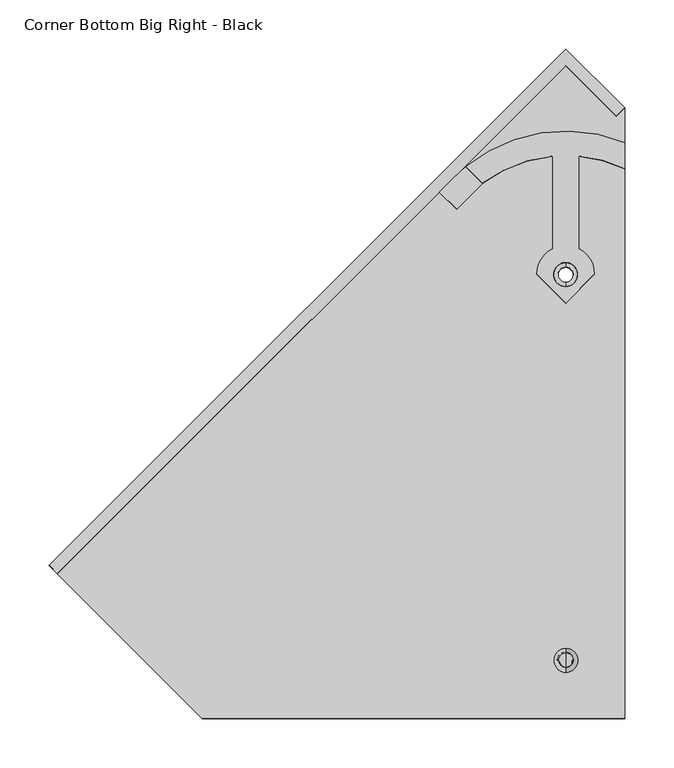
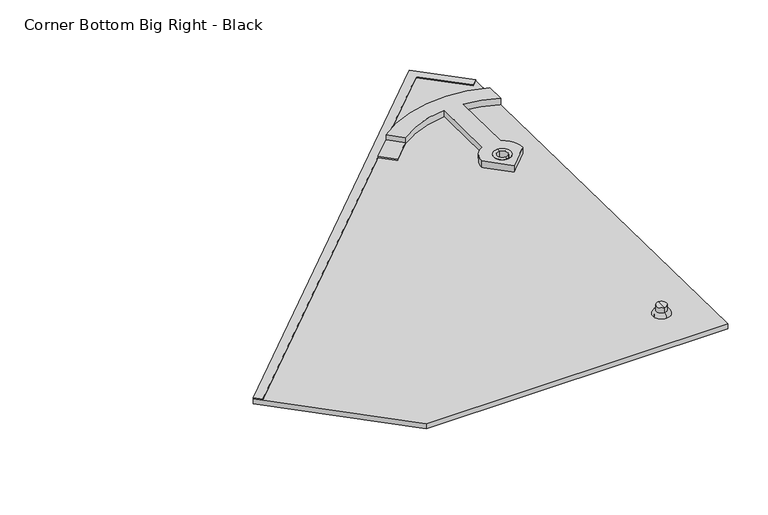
"""IFC4 building model written with IfcOpenShell, lengths in millimetres: proxy geometry, Roofing_Panels_SunStyle_Tile_Corner-Bottom-Big-Right : Corner Bottom Big Right - Black."""

import ifcopenshell
import ifcopenshell.guid

model = None  # the IFC model being written
_history = None  # IfcOwnerHistory: only IFC2X3 demands one
_inside = {}  # id of a spatial element -> (the spatial element, [elements in it])
_under = {}  # id of a project, library or spatial element -> (it, [spatial elements below it])
_declared = {}  # id of a project -> (the project, [libraries it declares])
_typed = {}  # id of a type object -> (the type object, [elements of that type])
_made_of = {}  # id of a material, layer set ... -> (it, [elements and type objects made of it])


def new_model(schema):
    """Start an empty IFC model of exactly this schema.

    Asked for "IFC4X3", IfcOpenShell would pick the latest addendum, in which some entities
    have other attributes; the version numbers below select the first issue.
    IFC2X3 requires an IfcOwnerHistory on every rooted entity: one is made here for all.
    """
    global model, _history
    if schema == "IFC4X3":
        model = ifcopenshell.file(schema_version=(4, 3, 0, 0))
    else:
        model = ifcopenshell.file(schema=schema)
    _inside.clear()
    _under.clear()
    _declared.clear()
    _typed.clear()
    _made_of.clear()
    _history = None
    if model.schema == "IFC2X3":
        org = make("IfcOrganization", Name="unknown")
        user = make(
            "IfcPersonAndOrganization",
            ThePerson=make("IfcPerson", FamilyName="unknown"),
            TheOrganization=org,
        )
        app = make(
            "IfcApplication",
            ApplicationDeveloper=org,
            Version="unknown",
            ApplicationFullName="unknown",
            ApplicationIdentifier="unknown",
        )
        _history = make(
            "IfcOwnerHistory",
            OwningUser=user,
            OwningApplication=app,
            ChangeAction="ADDED",
            CreationDate=0,
        )
    return model


def make(cls, **values):
    """One entity of the class cls with the attributes given. An attribute that is None is left unset."""
    return model.create_entity(
        cls, **{name: value for name, value in values.items() if value is not None}
    )


def rooted(cls, **values):
    """An entity with a GlobalId (a new one), such as an element, a storey or a relation."""
    return make(cls, GlobalId=ifcopenshell.guid.new(), OwnerHistory=_history, **values)


def si_unit(unit_type, name, prefix=None):
    """IfcSIUnit, for example si_unit("LENGTHUNIT", "METRE", prefix="MILLI")."""
    return make("IfcSIUnit", UnitType=unit_type, Prefix=prefix, Name=name)


def assignment(units):
    """IfcUnitAssignment: the units of a project."""
    return None if units is None else make("IfcUnitAssignment", Units=units)


def point(xyz):
    """IfcCartesianPoint."""
    return None if xyz is None else make("IfcCartesianPoint", Coordinates=xyz)


def direction(xyz):
    """IfcDirection."""
    return None if xyz is None else make("IfcDirection", DirectionRatios=xyz)


def frame(location, z_axis=None, x_axis=None):
    """IfcAxis2Placement3D, a coordinate frame: its origin and axes. An axis left out is left unset."""
    return make(
        "IfcAxis2Placement3D",
        Location=point(location),
        Axis=direction(z_axis),
        RefDirection=direction(x_axis),
    )


def frame_2d(location, x_axis=None):
    """IfcAxis2Placement2D, a coordinate frame in the plane: its origin and x axis."""
    return make(
        "IfcAxis2Placement2D", Location=point(location), RefDirection=direction(x_axis)
    )


def origin():
    """The frame at (0, 0, 0) with its axes left unset."""
    return frame((0.0, 0.0, 0.0))


def place(relative_to, where):
    """IfcLocalPlacement: puts the frame where relative to a parent placement (None: the world)."""
    return make(
        "IfcLocalPlacement", PlacementRelTo=relative_to, RelativePlacement=where
    )


def context(
    kind, dimensions, precision=None, world=None, true_north=None, identifier=None
):
    """IfcGeometricRepresentationContext, for example the 3D "Model" context."""
    return make(
        "IfcGeometricRepresentationContext",
        ContextIdentifier=identifier,
        ContextType=kind,
        CoordinateSpaceDimension=dimensions,
        Precision=precision,
        WorldCoordinateSystem=world,
        TrueNorth=true_north,
    )


def project(units=None, contexts=None):
    """IfcProject with its units and contexts."""
    return rooted(
        "IfcProject",
        Name="project",
        RepresentationContexts=contexts,
        UnitsInContext=assignment(units),
    )


def spatial(cls, under=None, at=None, **own):
    """A site, building, storey or space (cls), placed at a placement, below another one or the project."""
    s = rooted(cls, ObjectPlacement=at, **own)
    if under is not None:
        _under.setdefault(under.id(), (under, []))[1].append(s)
    return s


def polyline(points):
    """IfcPolyline through the points."""
    return make("IfcPolyline", Points=[point(p) for p in points])


def circle_curve(where, radius):
    """IfcCircle in the frame where."""
    return make("IfcCircle", Position=where, Radius=radius)


def ellipse_curve(where, semi_axis1, semi_axis2):
    """IfcEllipse in the frame where."""
    return make(
        "IfcEllipse", Position=where, SemiAxis1=semi_axis1, SemiAxis2=semi_axis2
    )


def trimmed(basis, trim1, trim2, sense, master):
    """IfcTrimmedCurve: the piece of a basis curve between two trims."""
    return make(
        "IfcTrimmedCurve",
        BasisCurve=basis,
        Trim1=trim1,
        Trim2=trim2,
        SenseAgreement=sense,
        MasterRepresentation=master,
    )


def segment(curve, same_sense, transition):
    """IfcCompositeCurveSegment."""
    return make(
        "IfcCompositeCurveSegment",
        Transition=transition,
        SameSense=same_sense,
        ParentCurve=curve,
    )


def composite_curve(segments, self_intersect=None):
    """IfcCompositeCurve: segments joined end to end."""
    return make("IfcCompositeCurve", Segments=segments, SelfIntersect=self_intersect)


def outline(outer, holes=None, kind="AREA"):
    """IfcArbitraryClosedProfileDef: a profile drawn as a closed curve; with holes, ...WithVoids."""
    if holes is None:
        return make("IfcArbitraryClosedProfileDef", ProfileType=kind, OuterCurve=outer)
    return make(
        "IfcArbitraryProfileDefWithVoids",
        ProfileType=kind,
        OuterCurve=outer,
        InnerCurves=holes,
    )


def extrude(swept, where, along, depth):
    """IfcExtrudedAreaSolid: the profile swept, set in the frame where, extruded along a direction by depth."""
    return make(
        "IfcExtrudedAreaSolid",
        SweptArea=swept,
        Position=where,
        ExtrudedDirection=direction(along),
        Depth=depth,
    )


def shape(context_of_items, identifier, shape_type, items):
    """IfcShapeRepresentation: the items that make up one representation, for example the "Body"."""
    return make(
        "IfcShapeRepresentation",
        ContextOfItems=context_of_items,
        RepresentationIdentifier=identifier,
        RepresentationType=shape_type,
        Items=items,
    )


def source(mapping_origin, context_of_items, identifier, shape_type, items):
    """IfcRepresentationMap: a shape defined once, which mapped items show again and again."""
    return make(
        "IfcRepresentationMap",
        MappingOrigin=mapping_origin,
        MappedRepresentation=shape(context_of_items, identifier, shape_type, items),
    )


def transform(
    local_origin,
    x_axis=None,
    y_axis=None,
    z_axis=None,
    scale=None,
    scale2=None,
    scale3=None,
    uniform=True,
):
    """IfcCartesianTransformationOperator3D, or its non-uniform kind. x_axis, y_axis, z_axis: its Axis1, 2, 3."""
    if uniform:
        return make(
            "IfcCartesianTransformationOperator3D",
            Axis1=direction(x_axis),
            Axis2=direction(y_axis),
            LocalOrigin=point(local_origin),
            Scale=scale,
            Axis3=direction(z_axis),
        )
    return make(
        "IfcCartesianTransformationOperator3DnonUniform",
        Axis1=direction(x_axis),
        Axis2=direction(y_axis),
        LocalOrigin=point(local_origin),
        Scale=scale,
        Axis3=direction(z_axis),
        Scale2=scale2,
        Scale3=scale3,
    )


def mapped(mapping_source, mapping_target):
    """IfcMappedItem: shows the shape of a source again, moved by a transform."""
    return make(
        "IfcMappedItem", MappingSource=mapping_source, MappingTarget=mapping_target
    )


def made_of(thing, what):
    """Note that an element or type object is made of a material, layer set ...; save() writes the relation."""
    if what is not None:
        _made_of.setdefault(what.id(), (what, []))[1].append(thing)
    return thing


def element(
    cls,
    number,
    at=None,
    inside=None,
    cuts=None,
    type_object=None,
    material=None,
    context=None,
    identifier="Body",
    shape_type=None,
    held_by="IfcProductDefinitionShape",
    body=None,
    shapes=None,
    **own,
):
    """One element of the class cls, such as IfcWall. Its Tag is "e" and its number.

    at: its placement. inside: the storey or other place that contains it. cuts: it is an
    opening in that element (IfcRelVoidsElement). A single representation is given by context,
    identifier, shape_type and body (its items); several are given by shapes. held_by: the class
    of the entity that holds the representations. save() writes the other relations.
    """
    e = rooted(cls, Tag="e%d" % number, ObjectPlacement=at, **own)
    if body is not None:
        shapes = [shape(context, identifier, shape_type, body)]
    if shapes is not None:
        e.Representation = make(held_by, Representations=shapes)
    if inside is not None:
        _inside.setdefault(inside.id(), (inside, []))[1].append(e)
    if cuts is not None:
        rooted(
            "IfcRelVoidsElement", RelatingBuildingElement=cuts, RelatedOpeningElement=e
        )
    if type_object is not None:
        _typed.setdefault(type_object.id(), (type_object, []))[1].append(e)
    return made_of(e, material)


def aggregate(whole, parts):
    """IfcRelAggregates: a whole, such as a stair, and the parts it consists of."""
    return rooted("IfcRelAggregates", RelatingObject=whole, RelatedObjects=parts)


def save(model, path):
    """Write the relations noted so far, then the file.

    IfcRelAggregates (storeys below a building ...), IfcRelContainedInSpatialStructure (elements
    in a storey), IfcRelDefinesByType, IfcRelAssociatesMaterial and IfcRelDeclares: one each for
    every whole, place, type object, material and project.
    """
    for whole, parts in _under.values():
        aggregate(whole, parts)
    for where, things in _inside.values():
        rooted(
            "IfcRelContainedInSpatialStructure",
            RelatedElements=things,
            RelatingStructure=where,
        )
    for kind, things in _typed.values():
        rooted("IfcRelDefinesByType", RelatedObjects=things, RelatingType=kind)
    for what, things in _made_of.values():
        rooted("IfcRelAssociatesMaterial", RelatedObjects=things, RelatingMaterial=what)
    for by, libraries in _declared.values():
        rooted("IfcRelDeclares", RelatingContext=by, RelatedDefinitions=libraries)
    model.write(path)


def plane_surface(at):
    """IfcPlane: the flat surface through the origin of the frame at, square to its z axis."""
    return make("IfcPlane", Position=at)


def cylinder_surface(at, radius):
    """IfcCylindricalSurface: all points at the distance radius from the z axis of the frame at."""
    return make("IfcCylindricalSurface", Position=at, Radius=radius)


def revolved_surface(curve, axis_point, axis_direction):
    """IfcSurfaceOfRevolution: the curve turned about the line through axis_point along axis_direction."""
    return make(
        "IfcSurfaceOfRevolution",
        SweptCurve=make("IfcArbitraryOpenProfileDef", ProfileType="CURVE", Curve=curve),
        AxisPosition=make("IfcAxis1Placement", Location=point(axis_point), Axis=direction(axis_direction)),
    )


def advanced_brep(points, edges, surfaces, faces):
    """IfcAdvancedBrep: a solid bounded by faces that lie on surfaces and meet in shared edges.

    An edge is (start, end): straight between two places in points (the first is 0);
    or (start, end, curve); or (start, end, curve, False) where it runs against its curve.
    A face is (place in surfaces, loops), or (place, loops, False) where it looks against
    its surface's normal. A loop lists edges by number (the first is 1), with a minus sign
    where the edge is run from its end to its start. The first loop is the outer one.
    """
    corners = [point(p) for p in points]
    vertices = [make("IfcVertexPoint", VertexGeometry=c) for c in corners]
    made = []
    for start, end, *more in edges:
        made.append(
            make(
                "IfcEdgeCurve",
                EdgeStart=vertices[start],
                EdgeEnd=vertices[end],
                EdgeGeometry=more[0] if more else make("IfcPolyline", Points=[corners[start], corners[end]]),
                SameSense=more[1] if len(more) > 1 else True,
            )
        )
    hull = []
    for where, loops, *sense in faces:
        bounds = []
        for j, loop in enumerate(loops):
            ring = [make("IfcOrientedEdge", EdgeElement=made[abs(k) - 1], Orientation=k > 0) for k in loop]
            bounds.append(
                make(
                    "IfcFaceOuterBound" if j == 0 else "IfcFaceBound",
                    Bound=make("IfcEdgeLoop", EdgeList=ring),
                    Orientation=True,
                )
            )
        hull.append(make("IfcAdvancedFace", Bounds=bounds, FaceSurface=surfaces[where], SameSense=sense[0] if sense else True))
    return make("IfcAdvancedBrep", Outer=make("IfcClosedShell", CfsFaces=hull))


def corner_bottom_big_right_black_b907a22d(model_context):
    return source(origin(), model_context, "Body", "SolidModel", [
        advanced_brep(
        [(0.2700094, -14.9906379, 18.1989674), (0.2700094, -1.6575574, 17.9756715), (0.2700094, -2.0258665, -4.0161979), (0.2700094, -15.358947, -3.792902), (0.2700094, -20.4898668, 18.2910658), (0.2700094, 3.8416715, 17.8835731), (0.2700094, -15.5408705, 23.2048726), (0.2700094, -0.9400075, 22.9603445), (0.2700094, -8.1064105, 31.0854967), (0.2700094, -0.805979, 30.9632326), (0.2700094, -15.406842, 31.2077608), (0.2700094, -8.6924067, -3.9045499)],
        [
            (0, 1, circle_curve(frame((0.2700094, -8.3240976, 18.0873194), z_axis=(0.0, -0.016745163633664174, -0.9998597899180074), x_axis=(0.0, 0.9998597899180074, -0.016745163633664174)), 6.6674751)),
            (1, 2),
            (2, 3, circle_curve(frame((0.2700094, -8.6924067, -3.9045499), z_axis=(0.0, 0.016745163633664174, 0.9998597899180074), x_axis=(0.0, 0.9998597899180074, -0.016745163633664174)), 6.6674751)),
            (3, 0),
            (1, 0, circle_curve(frame((0.2700094, -8.3240976, 18.0873194), z_axis=(0.0, -0.016745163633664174, -0.9998597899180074), x_axis=(0.0, 0.9998597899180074, -0.016745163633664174)), 6.6674751)),
            (3, 2, circle_curve(frame((0.2700094, -8.6924067, -3.9045499), z_axis=(0.0, 0.016745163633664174, 0.9998597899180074), x_axis=(0.0, 0.9998597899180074, -0.016745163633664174)), 6.6674751)),
            (4, 5, circle_curve(frame((0.2700094, -8.3240976, 18.0873194), z_axis=(0.0, -0.016745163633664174, -0.9998597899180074), x_axis=(0.0, 0.9998597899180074, -0.016745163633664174)), 12.1674751)),
            (5, 1),
            (0, 4),
            (5, 4, circle_curve(frame((0.2700094, -8.3240976, 18.0873194), z_axis=(0.0, -0.016745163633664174, -0.9998597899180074), x_axis=(0.0, 0.9998597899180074, -0.016745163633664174)), 12.1674751)),
            (6, 7, circle_curve(frame((0.2700094, -8.240439, 23.0826085), z_axis=(0.0, -0.016745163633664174, -0.9998597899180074), x_axis=(0.0, 0.9998597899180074, -0.016745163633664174)), 7.3014552)),
            (7, 5, circle_curve(frame((0.2700094, -1.2442055, 17.8835731), z_axis=(-1.0, 0.0, 0.0), x_axis=(0.0, 1.0, 0.0)), 5.0858769)),
            (4, 6, circle_curve(frame((0.2700094, -15.406842, 18.120762), z_axis=(-1.0, 0.0, 0.0), x_axis=(0.0, -0.9994391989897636, 0.03348563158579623)), 5.0858769)),
            (7, 6, circle_curve(frame((0.2700094, -8.240439, 23.0826085), z_axis=(0.0, -0.016745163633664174, -0.9998597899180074), x_axis=(0.0, 0.9998597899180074, -0.016745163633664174)), 7.3014552)),
            (8, 9),
            (9, 10, circle_curve(frame((0.2700094, -8.1064105, 31.0854967), z_axis=(0.0, 0.016745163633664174, 0.9998597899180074), x_axis=(0.0, 0.9998597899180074, -0.016745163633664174)), 7.3014552)),
            (10, 8),
            (10, 9, circle_curve(frame((0.2700094, -8.1064105, 31.0854967), z_axis=(0.0, 0.016745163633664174, 0.9998597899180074), x_axis=(0.0, 0.9998597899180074, -0.016745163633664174)), 7.3014552)),
            (2, 11),
            (11, 3),
            (9, 7),
            (6, 10),
        ],
        [
            cylinder_surface(frame((0.2700094, -7.9720525, 39.1080636), z_axis=(0.0, 0.016745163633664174, 0.9998597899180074), x_axis=(0.0, 0.9998597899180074, -0.016745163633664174)), 6.6674751),
            plane_surface(frame((0.2700094, -8.3240976, 18.0873194), z_axis=(0.0, -0.016745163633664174, -0.9998597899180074), x_axis=(0.0, 0.9998597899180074, -0.016745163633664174))),
            revolved_surface(trimmed(ellipse_curve(frame((0.2700094, -1.2442055, 17.8835731), z_axis=(1.0, 0.0, 0.0), x_axis=(0.0, 1.0, 0.0)), 5.0858769, 5.0858769), [point((0.2700094, 3.8416715, 17.8835731))], [point((0.2700094, -0.9400075, 22.9603445))], True, "CARTESIAN"), (0.2700094, -7.9720525, 39.1080636), (0.0, 0.016745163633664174, 0.9998597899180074)),
            plane_surface(frame((0.2700094, -8.1064105, 31.0854967), z_axis=(0.0, 0.016745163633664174, 0.9998597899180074), x_axis=(0.0, 0.9998597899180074, -0.016745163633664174))),
            plane_surface(frame((0.2700094, -8.6924067, -3.9045499), z_axis=(0.0, -0.016745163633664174, -0.9998597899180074), x_axis=(0.0, 0.9998597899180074, -0.016745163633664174))),
            cylinder_surface(frame((0.2700094, -7.9720525, 39.1080636), z_axis=(0.0, 0.016745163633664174, 0.9998597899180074), x_axis=(0.0, 0.9998597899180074, -0.016745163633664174)), 7.3014552),
        ],
        [
            (0, [[1, 2, 3, 4]]),
            (0, [[5, -4, 6, -2]]),
            (1, [[7, 8, -1, 9]]),
            (1, [[10, -9, -5, -8]]),
            (2, [[11, 12, -7, 13]]),
            (2, [[14, -13, -10, -12]]),
            (3, [[15, 16, 17]]),
            (3, [[-17, 18, -15]]),
            (4, [[-3, 19, 20]]),
            (4, [[-6, -20, -19]]),
            (5, [[-16, 21, -11, 22]]),
            (5, [[-18, -22, -14, -21]]),
        ],
    ),
        extrude(outline(polyline([(0.0, -11.9999999), (0.0, 0.0), (744.8589156, 0.0), (744.8708335, -84.9940404), (732.8708335, -84.9957231), (732.8605981, -12.0), (0.0, -11.9999999)])), frame((-526.732038, 88.3990677, 14.8231598), z_axis=(0.0, 0.016745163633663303, 0.9998597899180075), x_axis=(0.7071563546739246, 0.7069580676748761, -0.011839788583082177)), (0.0, 0.0, 1.0), 1.5),
        advanced_brep(
        [(0.0, 377.2738092, 20.2441668), (0.0, 392.6066101, 19.9873805), (0.0, 397.1059788, 19.9120273), (0.0, 372.7744405, 20.31952), (0.0, 377.005887, 4.2464102), (0.0, 392.3386871, 3.9896239), (0.0, 372.5065179, 4.3217634), (0.0, 396.8380562, 3.9142707)],
        [
            (0, 1, circle_curve(frame((0.0, 384.9402097, 20.1157737), z_axis=(0.0, -0.016745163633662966, -0.9998597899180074), x_axis=(0.0, 0.9998597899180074, -0.016745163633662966)), 7.6674755)),
            (1, 2),
            (2, 3, circle_curve(frame((0.0, 384.9402097, 20.1157737), z_axis=(0.0, 0.016745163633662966, 0.9998597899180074), x_axis=(0.0, 0.9998597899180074, -0.016745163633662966)), 12.1674751)),
            (3, 0),
            (1, 0, circle_curve(frame((0.0, 384.9402097, 20.1157737), z_axis=(0.0, -0.016745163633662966, -0.9998597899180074), x_axis=(0.0, 0.9998597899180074, -0.016745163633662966)), 7.6674755)),
            (3, 2, circle_curve(frame((0.0, 384.9402097, 20.1157737), z_axis=(0.0, 0.016745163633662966, 0.9998597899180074), x_axis=(0.0, 0.9998597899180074, -0.016745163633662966)), 12.1674751)),
            (4, 5, circle_curve(frame((0.0, 384.672287, 4.118017), z_axis=(0.0, -0.016745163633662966, -0.9998597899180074), x_axis=(0.0, 0.9998597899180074, -0.016745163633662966)), 7.6674751)),
            (5, 1),
            (0, 4),
            (5, 4, circle_curve(frame((0.0, 384.672287, 4.118017), z_axis=(0.0, -0.016745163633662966, -0.9998597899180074), x_axis=(0.0, 0.9998597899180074, -0.016745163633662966)), 7.6674751)),
            (6, 7, circle_curve(frame((0.0, 384.672287, 4.118017), z_axis=(0.0, -0.016745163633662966, -0.9998597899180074), x_axis=(0.0, 0.9998597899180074, -0.016745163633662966)), 12.1674751)),
            (7, 5),
            (4, 6),
            (7, 6, circle_curve(frame((0.0, 384.672287, 4.118017), z_axis=(0.0, -0.016745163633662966, -0.9998597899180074), x_axis=(0.0, 0.9998597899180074, -0.016745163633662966)), 12.1674751)),
            (2, 7),
            (6, 3),
        ],
        [
            plane_surface(frame((0.0, 384.9402097, 20.1157737), z_axis=(0.0, 0.016745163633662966, 0.9998597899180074), x_axis=(0.0, 0.9998597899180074, -0.016745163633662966))),
            revolved_surface(polyline([(0.0, 392.60660974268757, 19.987380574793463), (0.0, 392.3386871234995, 3.9896238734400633)]), (0.0, 384.9402097, 20.1157737), (0.0, 0.016745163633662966, 0.9998597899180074)),
            plane_surface(frame((0.0, 384.672287, 4.118017), z_axis=(0.0, -0.016745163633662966, -0.9998597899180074), x_axis=(0.0, 0.9998597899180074, -0.016745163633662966))),
            cylinder_surface(frame((0.0, 384.9402097, 20.1157737), z_axis=(0.0, 0.016745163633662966, 0.9998597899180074), x_axis=(0.0, 0.9998597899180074, -0.016745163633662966)), 12.1674751),
        ],
        [
            (0, [[1, 2, 3, 4]]),
            (0, [[5, -4, 6, -2]]),
            (1, [[7, 8, -1, 9]]),
            (1, [[10, -9, -5, -8]]),
            (2, [[11, 12, -7, 13]]),
            (2, [[14, -13, -10, -12]]),
            (3, [[-3, 15, -11, 16]]),
            (3, [[-6, -16, -14, -15]]),
        ],
    ),
        extrude(outline(polyline([(230.2296775, 12.0003225), (170.1340284, -48.1037539), (-452.7826354, -48.1037539), (-452.7826354, 382.3556619), (-296.4281848, 538.732038), (230.2296775, 12.0003225)]), holes=[composite_curve([segment(trimmed(circle_curve(frame_2d((0.0, 12.0)), 12.0), [point((0.0, 24.0))], [point((0.0, 0.0))], True, "CARTESIAN"), True, "CONTINUOUS"), segment(trimmed(circle_curve(frame_2d((0.0, 12.0)), 12.0), [point((0.0, 0.0))], [point((0.0, 24.0))], True, "CARTESIAN"), True, "CONTINUOUS")], self_intersect=False), composite_curve([segment(trimmed(circle_curve(frame_2d((-392.7826354, 12.3464676)), 8.0), [point((-392.7826354, 20.3464676))], [point((-392.7826354, 4.3464676))], True, "CARTESIAN"), True, "CONTINUOUS"), segment(trimmed(circle_curve(frame_2d((-392.7826354, 12.3464676)), 8.0), [point((-392.7826354, 4.3464676))], [point((-392.7826354, 20.3464676))], True, "CARTESIAN"), True, "CONTINUOUS")], self_intersect=False)]), frame((12.0, 384.6601016, 2.3604729), z_axis=(0.0, 0.01674516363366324, 0.9998597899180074), x_axis=(0.0, 0.9998597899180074, -0.01674516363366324)), (0.0, 0.0, 1.0), 7.5),
        advanced_brep(
        [(-128.9467134, 469.1477223, 10.9469178), (-111.2690438, 451.4725314, 11.2429333), (-84.9431983, 477.7946858, 10.8021027), (-102.0275718, 494.8742688, 10.5160622), (-114.2509691, 483.8393459, 10.7008697), (-128.9467134, 469.1058594, 8.4472683), (-114.2509691, 483.797483, 8.2012202), (-102.0275718, 494.8324058, 8.0164127), (60.1037539, 519.5218584, 7.6029258), (60.1037539, 492.7956258, 8.0505237), (13.3, 505.6435355, 7.8353532), (13.3, 411.3247133, 9.4149588), (29.3894281, 385.1205936, 9.8538126), (0.0, 355.7352863, 10.3459433), (-29.3894281, 385.1205936, 9.8538126), (-13.3, 411.3247133, 9.4149588), (-13.3, 505.6435355, 7.8353532), (-84.944396, 477.7516253, 8.3024733), (-111.2690438, 451.4306685, 8.7432838), (12.0, 385.1205936, 9.8538126), (-12.0, 385.1205936, 9.8538126), (60.1037539, 519.6893101, 17.6015237), (-102.0275718, 494.9998575, 18.0150106), (-84.944396, 477.9190769, 18.3010712), (-13.3, 505.8109871, 17.8339511), (-13.3, 411.492165, 19.4135567), (-29.3894281, 385.2880453, 19.8524105), (0.0, 355.9027379, 20.3445412), (29.3894281, 385.2880453, 19.8524105), (13.3, 411.492165, 19.4135567), (13.3, 505.8109871, 17.8339511), (60.1037539, 492.9630774, 18.0491216), (12.0, 385.2880453, 19.8524105), (-12.0, 385.2880453, 19.8524105)],
        [
            (0, 1),
            (1, 2),
            (2, 3),
            (3, 4, circle_curve(frame((0.0, 369.6043959, 12.6140208), z_axis=(0.0, 0.01674516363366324, 0.9998597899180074), x_axis=(-1.0, 0.0, 0.0)), 161.57527)),
            (4, 0),
            (5, 6),
            (6, 7, circle_curve(frame((0.0, 369.562533, 10.1143714), z_axis=(0.0, -0.01674516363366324, -0.9998597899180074), x_axis=(-1.0, 0.0, 0.0)), 161.57527)),
            (7, 8, circle_curve(frame((0.0, 369.562533, 10.1143714), z_axis=(0.0, -0.01674516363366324, -0.9998597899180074), x_axis=(-1.0, 0.0, 0.0)), 161.57527)),
            (8, 9),
            (9, 10, circle_curve(frame((0.0, 365.5555068, 10.1814791), z_axis=(0.0, 0.01674516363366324, 0.9998597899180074), x_axis=(-1.0, 0.0, 0.0)), 140.737522)),
            (10, 11),
            (11, 12, circle_curve(frame((0.0, 385.1205936, 9.8538126), z_axis=(0.0, -0.01674516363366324, -0.9998597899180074), x_axis=(-1.0, 0.0, 0.0)), 29.3894281)),
            (12, 13),
            (13, 14),
            (14, 15, circle_curve(frame((0.0, 385.1205936, 9.8538126), z_axis=(0.0, -0.01674516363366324, -0.9998597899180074), x_axis=(-1.0, 0.0, 0.0)), 29.3894281)),
            (15, 16),
            (16, 17, circle_curve(frame((0.0, 365.5555068, 10.1814791), z_axis=(0.0, 0.01674516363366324, 0.9998597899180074), x_axis=(-1.0, 0.0, 0.0)), 140.737522)),
            (17, 18),
            (18, 5),
            (19, 20, circle_curve(frame((0.0, 385.1205936, 9.8538126), z_axis=(0.0, 0.01674516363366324, 0.9998597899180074), x_axis=(-1.0, 0.0, 0.0)), 12.0)),
            (20, 19, circle_curve(frame((0.0, 385.1205936, 9.8538126), z_axis=(0.0, 0.01674516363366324, 0.9998597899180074), x_axis=(-1.0, 0.0, 0.0)), 12.0)),
            (4, 6),
            (5, 0),
            (18, 1),
            (3, 7),
            (17, 2),
            (21, 22, circle_curve(frame((0.0, 369.7299846, 20.1129693), z_axis=(0.0, 0.01674516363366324, 0.9998597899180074), x_axis=(-1.0, 0.0, 0.0)), 161.57527)),
            (22, 23),
            (23, 24, circle_curve(frame((0.0, 365.7229584, 20.180077), z_axis=(0.0, -0.01674516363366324, -0.9998597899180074), x_axis=(-1.0, 0.0, 0.0)), 140.737522)),
            (24, 25),
            (25, 26, circle_curve(frame((0.0, 385.2880453, 19.8524105), z_axis=(0.0, 0.01674516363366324, 0.9998597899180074), x_axis=(-1.0, 0.0, 0.0)), 29.3894281)),
            (26, 27),
            (27, 28),
            (28, 29, circle_curve(frame((0.0, 385.2880453, 19.8524105), z_axis=(0.0, 0.01674516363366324, 0.9998597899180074), x_axis=(-1.0, 0.0, 0.0)), 29.3894281)),
            (29, 30),
            (30, 31, circle_curve(frame((0.0, 365.7229584, 20.180077), z_axis=(0.0, -0.01674516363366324, -0.9998597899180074), x_axis=(-1.0, 0.0, 0.0)), 140.737522)),
            (31, 21),
            (32, 33, circle_curve(frame((0.0, 385.2880453, 19.8524105), z_axis=(0.0, -0.01674516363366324, -0.9998597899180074), x_axis=(-1.0, 0.0, 0.0)), 12.0)),
            (33, 32, circle_curve(frame((0.0, 385.2880453, 19.8524105), z_axis=(0.0, -0.01674516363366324, -0.9998597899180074), x_axis=(-1.0, 0.0, 0.0)), 12.0)),
            (29, 11),
            (10, 30),
            (28, 12),
            (27, 13),
            (26, 14),
            (25, 15),
            (24, 16),
            (21, 8),
            (3, 22),
            (33, 20),
            (19, 32),
            (2, 23),
            (9, 31),
        ],
        [
            plane_surface(frame((0.0, 340.2190886, 13.1061516), z_axis=(0.0, 0.016745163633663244, 0.9998597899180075), x_axis=(0.7071067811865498, -0.7070076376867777, 0.01184061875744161))),
            plane_surface(frame((0.0, 340.1772257, 10.6065021), z_axis=(0.0, -0.016745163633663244, -0.9998597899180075), x_axis=(-0.7071067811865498, 0.7070076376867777, -0.01184061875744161))),
            plane_surface(frame((-114.2509691, 483.8393459, 10.7008697), z_axis=(-0.7070572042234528, 0.7070572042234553, -0.011841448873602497), x_axis=(0.0, -0.016745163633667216, -0.9998597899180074))),
            plane_surface(frame((-128.9467134, 469.1477223, 10.9469178), z_axis=(-0.7071067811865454, -0.7070076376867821, 0.011840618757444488), x_axis=(0.0, -0.016745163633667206, -0.9998597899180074))),
            cylinder_surface(frame((0.0, 369.562533, 10.1143714), z_axis=(0.0, 0.01674516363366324, 0.9998597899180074), x_axis=(-1.0, 0.0, 0.0)), 161.57527),
            plane_surface(frame((-111.2690438, 451.4725314, 11.2429333), z_axis=(0.7071067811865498, -0.7070076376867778, 0.011840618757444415), x_axis=(0.0, -0.016745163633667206, -0.9998597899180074))),
            plane_surface(frame((-161.57527, 369.7299846, 20.1129693), z_axis=(0.0, 0.016745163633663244, 0.9998597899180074), x_axis=(0.0, -0.9998597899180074, 0.016745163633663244))),
            plane_surface(frame((13.3, 411.492165, 19.4135567), z_axis=(1.0000000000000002, 0.0, 0.0), x_axis=(0.0, -0.01674516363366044, -0.9998597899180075))),
            cylinder_surface(frame((0.0, 385.1205936, 9.8538126), z_axis=(0.0, 0.01674516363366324, 0.9998597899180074), x_axis=(-1.0, 0.0, 0.0)), 29.3894281),
            plane_surface(frame((0.0, 355.9027379, 20.3445412), z_axis=(0.7071067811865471, -0.7070076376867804, 0.011840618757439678), x_axis=(0.0, -0.016745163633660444, -0.9998597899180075))),
            plane_surface(frame((-29.3894281, 385.2880453, 19.8524105), z_axis=(-0.7071067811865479, -0.7070076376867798, 0.011840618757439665), x_axis=(0.0, -0.016745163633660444, -0.9998597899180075))),
            plane_surface(frame((-13.3, 505.8109871, 17.8339511), z_axis=(-1.0000000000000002, 0.0, 0.0), x_axis=(0.0, -0.01674516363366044, -0.9998597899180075))),
            revolved_surface(polyline([(-12.0, 385.1205936, 9.8538126), (-12.0, 385.2880452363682, 19.852410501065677)]), (0.0, 385.1205936, 9.8538126), (0.0, -0.01674516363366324, -0.9998597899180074)),
            plane_surface(frame((-102.0275718, 494.9998575, 18.0150106), z_axis=(-0.7071067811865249, -0.7070076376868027, 0.011840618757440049), x_axis=(0.0, -0.01674516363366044, -0.9998597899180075))),
            revolved_surface(polyline([(-140.737522, 365.5555067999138, 10.18147909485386), (-140.737522, 365.722958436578, 20.18007701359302)]), (0.0, 365.5555068, 10.1814791), (0.0, -0.01674516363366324, -0.9998597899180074)),
            revolved_surface(polyline([(-140.737522, 365.5555068, 10.1814791), (-140.737522, 365.72295843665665, 20.180077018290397)]), (0.0, 365.5555068, 10.1814791), (0.0, -0.01674516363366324, -0.9998597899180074)),
            plane_surface(frame((60.1037539, 492.9630774, 18.0491216), z_axis=(1.0000000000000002, 0.0, 0.0), x_axis=(0.0, -0.01674516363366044, -0.9998597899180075))),
        ],
        [
            (0, [[1, 2, 3, 4, 5]]),
            (1, [[6, 7, 8, 9, 10, 11, 12, 13, 14, 15, 16, 17, 18, 19], [20, 21]]),
            (2, [[-5, 22, -6, 23]]),
            (3, [[-1, -23, -19, 24]]),
            (4, [[-4, 25, -7, -22]]),
            (5, [[-2, -24, -18, 26]]),
            (6, [[27, 28, 29, 30, 31, 32, 33, 34, 35, 36, 37], [38, 39]]),
            (7, [[-35, 40, -11, 41]]),
            (8, [[-34, 42, -12, -40]]),
            (9, [[-33, 43, -13, -42]]),
            (10, [[-32, 44, -14, -43]]),
            (8, [[-31, 45, -15, -44]]),
            (11, [[-30, 46, -16, -45]]),
            (4, [[-27, 47, -8, -25, 48]]),
            (12, [[-39, 49, -20, 50]]),
            (12, [[-38, -50, -21, -49]]),
            (13, [[-28, -48, -3, 51]]),
            (14, [[-36, -41, -10, 52]]),
            (15, [[-29, -51, -26, -17, -46]]),
            (16, [[-37, -52, -9, -47]]),
        ],
    ),
    ])


if __name__ == "__main__":
    model = new_model("IFC4")
    model_context = context("Model", 3, world=origin())
    ifc_project = project(units=[si_unit("LENGTHUNIT", "METRE", prefix="MILLI")], contexts=[model_context])
    site = spatial("IfcSite", under=ifc_project)
    building = spatial("IfcBuilding", under=site)
    placement = place(None, origin())
    corner_bottom_big_right_black_shape = corner_bottom_big_right_black_b907a22d(model_context)
    element("IfcBuildingElementProxy", 1, Name="Roofing_Panels_SunStyle_Tile_Corner-Bottom-Big-Right : Corner Bottom Big Right - Black", ObjectType="Roofing_Panels_SunStyle_Tile_Corner-Bottom-Big-Right : Corner Bottom Big Right - Black", at=placement, inside=building, context=model_context, shape_type="MappedRepresentation", body=[
        mapped(corner_bottom_big_right_black_shape, transform((0.0, 0.0, 0.0), x_axis=(1.0, 0.0, 0.0), y_axis=(0.0, 1.0, 0.0), z_axis=(0.0, 0.0, 1.0))),
    ])
    save(model, "model.ifc")
